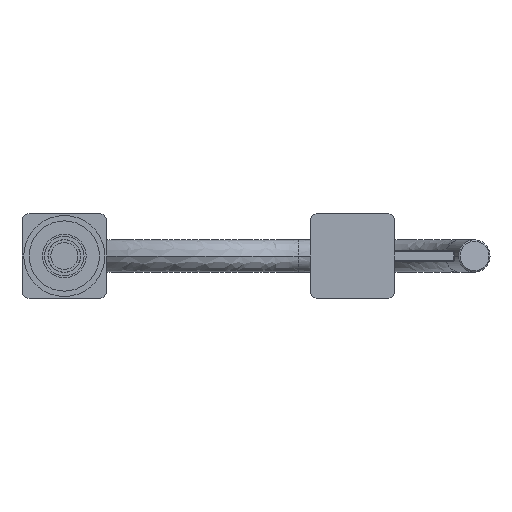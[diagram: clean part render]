
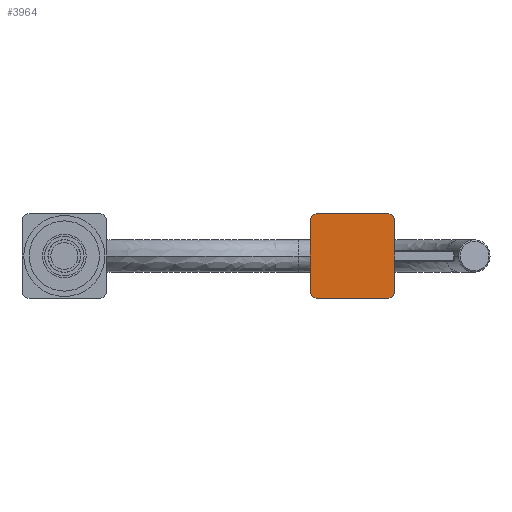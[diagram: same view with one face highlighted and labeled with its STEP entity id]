
A CAD part, front view. The second image highlights one B-rep face of the part: STEP entity #3964.
In plain terms, the highlighted planar face has unit normal (0, -1, 0).
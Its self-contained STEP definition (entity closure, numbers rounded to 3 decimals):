
#2828=CARTESIAN_POINT('',(179.5,0.,-19.5));
#2829=DIRECTION('',(0.,-1.,0.));
#2830=DIRECTION('',(0.,0.,-1.));
#2831=AXIS2_PLACEMENT_3D('',#2828,#2829,#2830);
#2833=DIRECTION('',(-1.,0.,0.));
#2834=VECTOR('',#2833,39.);
#2835=CARTESIAN_POINT('',(179.5,0.,-23.5));
#2836=LINE('',#2835,#2834);
#2837=CARTESIAN_POINT('',(140.5,0.,-19.5));
#2838=DIRECTION('',(0.,-1.,0.));
#2839=DIRECTION('',(-1.,0.,0.));
#2840=AXIS2_PLACEMENT_3D('',#2837,#2838,#2839);
#2842=DIRECTION('',(0.,0.,1.));
#2843=VECTOR('',#2842,39.);
#2844=CARTESIAN_POINT('',(136.5,0.,-19.5));
#2845=LINE('',#2844,#2843);
#2846=CARTESIAN_POINT('',(140.5,0.,19.5));
#2847=DIRECTION('',(0.,-1.,0.));
#2848=DIRECTION('',(0.,0.,1.));
#2849=AXIS2_PLACEMENT_3D('',#2846,#2847,#2848);
#2851=DIRECTION('',(1.,0.,0.));
#2852=VECTOR('',#2851,39.);
#2853=CARTESIAN_POINT('',(140.5,0.,23.5));
#2854=LINE('',#2853,#2852);
#2855=CARTESIAN_POINT('',(179.5,0.,19.5));
#2856=DIRECTION('',(0.,-1.,0.));
#2857=DIRECTION('',(1.,0.,0.));
#2858=AXIS2_PLACEMENT_3D('',#2855,#2856,#2857);
#2860=DIRECTION('',(0.,0.,-1.));
#2861=VECTOR('',#2860,39.);
#2862=CARTESIAN_POINT('',(183.5,0.,19.5));
#2863=LINE('',#2862,#2861);
#2869=CARTESIAN_POINT('',(179.5,0.,-23.5));
#2870=CARTESIAN_POINT('',(183.5,0.,-19.5));
#2871=VERTEX_POINT('',#2869);
#2872=VERTEX_POINT('',#2870);
#2873=CARTESIAN_POINT('',(183.5,0.,19.5));
#2874=CARTESIAN_POINT('',(179.5,0.,23.5));
#2875=VERTEX_POINT('',#2873);
#2876=VERTEX_POINT('',#2874);
#2877=CARTESIAN_POINT('',(136.5,0.,-19.5));
#2878=CARTESIAN_POINT('',(140.5,0.,-23.5));
#2879=VERTEX_POINT('',#2877);
#2880=VERTEX_POINT('',#2878);
#2881=CARTESIAN_POINT('',(140.5,0.,23.5));
#2882=CARTESIAN_POINT('',(136.5,0.,19.5));
#2883=VERTEX_POINT('',#2881);
#2884=VERTEX_POINT('',#2882);
#3949=CARTESIAN_POINT('',(160.,0.,0.));
#3950=DIRECTION('',(0.,1.,0.));
#3951=DIRECTION('',(0.,0.,-1.));
#3952=AXIS2_PLACEMENT_3D('',#3949,#3950,#3951);
#3953=PLANE('',#3952);
#3954=ORIENTED_EDGE('',*,*,#3916,.F.);
#3955=ORIENTED_EDGE('',*,*,#3930,.T.);
#3956=ORIENTED_EDGE('',*,*,#3943,.F.);
#3957=ORIENTED_EDGE('',*,*,#3845,.T.);
#3958=ORIENTED_EDGE('',*,*,#3860,.F.);
#3959=ORIENTED_EDGE('',*,*,#3874,.T.);
#3960=ORIENTED_EDGE('',*,*,#3888,.F.);
#3961=ORIENTED_EDGE('',*,*,#3902,.T.);
#3962=EDGE_LOOP('',(#3954,#3955,#3956,#3957,#3958,#3959,#3960,#3961));
#3963=FACE_OUTER_BOUND('',#3962,.F.);
#3964=ADVANCED_FACE('',(#3963),#3953,.F.);
#2832=CIRCLE('',#2831,4.);
#2841=CIRCLE('',#2840,4.);
#2850=CIRCLE('',#2849,4.);
#2859=CIRCLE('',#2858,4.);
#3845=EDGE_CURVE('',#2879,#2884,#2845,.T.);
#3860=EDGE_CURVE('',#2883,#2884,#2850,.T.);
#3874=EDGE_CURVE('',#2883,#2876,#2854,.T.);
#3888=EDGE_CURVE('',#2875,#2876,#2859,.T.);
#3902=EDGE_CURVE('',#2875,#2872,#2863,.T.);
#3916=EDGE_CURVE('',#2871,#2872,#2832,.T.);
#3930=EDGE_CURVE('',#2871,#2880,#2836,.T.);
#3943=EDGE_CURVE('',#2879,#2880,#2841,.T.);
